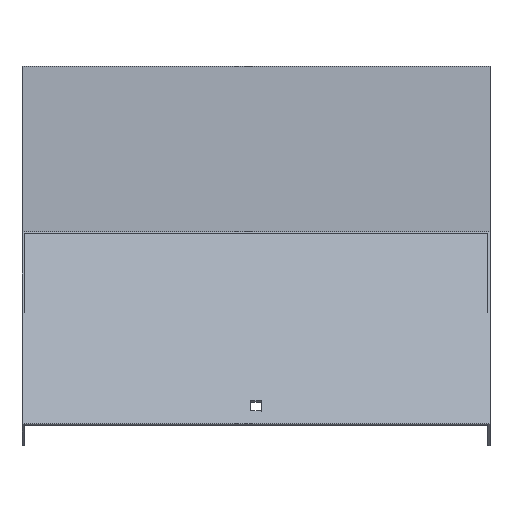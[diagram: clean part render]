
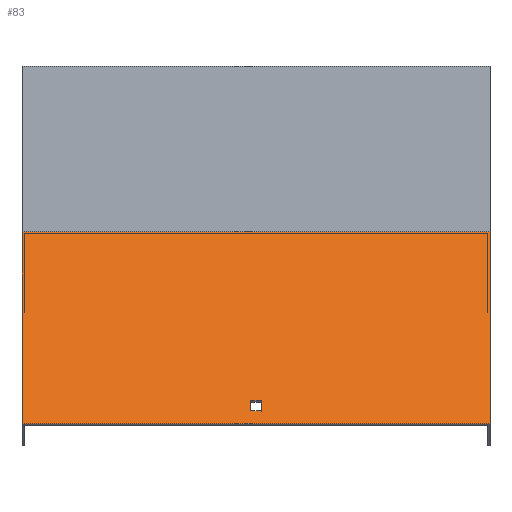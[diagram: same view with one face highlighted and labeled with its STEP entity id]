
A CAD part, top view. The second image highlights one B-rep face of the part: STEP entity #83.
In plain terms, the highlighted planar face has unit normal (0, 0.707, 0.707).
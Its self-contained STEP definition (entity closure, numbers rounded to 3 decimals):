
#5 = DIRECTION ( 'NONE',  ( 0., 0.707, -0.707 ) ) ;
#24 = ORIENTED_EDGE ( 'NONE', *, *, #441, .F. ) ;
#26 = EDGE_CURVE ( 'NONE', #655, #223, #465, .T. ) ;
#27 = VECTOR ( 'NONE', #407, 1000. ) ;
#33 = VECTOR ( 'NONE', #5, 1000. ) ;
#50 = EDGE_CURVE ( 'NONE', #576, #820, #211, .T. ) ;
#56 = VECTOR ( 'NONE', #664, 1000. ) ;
#69 = CARTESIAN_POINT ( 'NONE',  ( -151.5, -211.953, 559.984 ) ) ;
#83 = ADVANCED_FACE ( 'NONE', ( #672, #521 ), #342, .F. ) ;
#130 = CARTESIAN_POINT ( 'NONE',  ( 151.5, -197.104, 545.134 ) ) ;
#161 = CARTESIAN_POINT ( 'NONE',  ( -3.25, -197.104, 545.134 ) ) ;
#168 = LINE ( 'NONE', #822, #367 ) ;
#173 = CARTESIAN_POINT ( 'NONE',  ( -3.25, -203.468, 551.498 ) ) ;
#186 = EDGE_CURVE ( 'NONE', #759, #655, #168, .T. ) ;
#187 = VERTEX_POINT ( 'NONE', #355 ) ;
#211 = LINE ( 'NONE', #595, #735 ) ;
#217 = EDGE_LOOP ( 'NONE', ( #523, #24, #228, #632 ) ) ;
#223 = VERTEX_POINT ( 'NONE', #161 ) ;
#228 = ORIENTED_EDGE ( 'NONE', *, *, #50, .F. ) ;
#229 = CARTESIAN_POINT ( 'NONE',  ( 151.5, -87.517, 435.548 ) ) ;
#231 = VECTOR ( 'NONE', #612, 1000. ) ;
#251 = VERTEX_POINT ( 'NONE', #525 ) ;
#268 = LINE ( 'NONE', #457, #231 ) ;
#273 = DIRECTION ( 'NONE',  ( 0., -0.707, 0.707 ) ) ;
#293 = CARTESIAN_POINT ( 'NONE',  ( -151.5, -90.33, 438.361 ) ) ;
#300 = DIRECTION ( 'NONE',  ( -1., 0., 0. ) ) ;
#324 = DIRECTION ( 'NONE',  ( -1., 0., 0. ) ) ;
#330 = EDGE_CURVE ( 'NONE', #187, #759, #471, .T. ) ;
#342 = PLANE ( 'NONE',  #504 ) ;
#343 = CARTESIAN_POINT ( 'NONE',  ( 151.5, -211.953, 559.984 ) ) ;
#355 = CARTESIAN_POINT ( 'NONE',  ( 3.25, -197.104, 545.134 ) ) ;
#356 = VERTEX_POINT ( 'NONE', #69 ) ;
#362 = CARTESIAN_POINT ( 'NONE',  ( 3.25, -203.468, 551.498 ) ) ;
#367 = VECTOR ( 'NONE', #300, 1000. ) ;
#390 = LINE ( 'NONE', #343, #499 ) ;
#407 = DIRECTION ( 'NONE',  ( 0., -0.707, 0.707 ) ) ;
#410 = CARTESIAN_POINT ( 'NONE',  ( 151.5, -90.33, 438.361 ) ) ;
#423 = VECTOR ( 'NONE', #693, 1000. ) ;
#427 = ORIENTED_EDGE ( 'NONE', *, *, #476, .T. ) ;
#441 = EDGE_CURVE ( 'NONE', #820, #356, #390, .T. ) ;
#457 = CARTESIAN_POINT ( 'NONE',  ( 151.5, -87.517, 435.548 ) ) ;
#465 = LINE ( 'NONE', #537, #33 ) ;
#471 = LINE ( 'NONE', #543, #27 ) ;
#474 = DIRECTION ( 'NONE',  ( 0., 0.707, -0.707 ) ) ;
#476 = EDGE_CURVE ( 'NONE', #223, #187, #654, .T. ) ;
#487 = CARTESIAN_POINT ( 'NONE',  ( 151.5, -211.953, 559.984 ) ) ;
#499 = VECTOR ( 'NONE', #324, 1000. ) ;
#504 = AXIS2_PLACEMENT_3D ( 'NONE', #410, #799, #474 ) ;
#513 = EDGE_CURVE ( 'NONE', #576, #251, #268, .T. ) ;
#521 = FACE_OUTER_BOUND ( 'NONE', #217, .T. ) ;
#523 = ORIENTED_EDGE ( 'NONE', *, *, #606, .T. ) ;
#525 = CARTESIAN_POINT ( 'NONE',  ( -151.5, -87.517, 435.548 ) ) ;
#537 = CARTESIAN_POINT ( 'NONE',  ( -3.25, -90.33, 438.361 ) ) ;
#543 = CARTESIAN_POINT ( 'NONE',  ( 3.25, -90.33, 438.361 ) ) ;
#576 = VERTEX_POINT ( 'NONE', #229 ) ;
#595 = CARTESIAN_POINT ( 'NONE',  ( 151.5, -90.33, 438.361 ) ) ;
#606 = EDGE_CURVE ( 'NONE', #251, #356, #678, .T. ) ;
#612 = DIRECTION ( 'NONE',  ( -1., 0., 0. ) ) ;
#632 = ORIENTED_EDGE ( 'NONE', *, *, #513, .T. ) ;
#654 = LINE ( 'NONE', #130, #56 ) ;
#655 = VERTEX_POINT ( 'NONE', #173 ) ;
#664 = DIRECTION ( 'NONE',  ( 1., 0., 0. ) ) ;
#672 = FACE_BOUND ( 'NONE', #768, .T. ) ;
#678 = LINE ( 'NONE', #293, #423 ) ;
#693 = DIRECTION ( 'NONE',  ( 0., -0.707, 0.707 ) ) ;
#708 = ORIENTED_EDGE ( 'NONE', *, *, #186, .T. ) ;
#719 = ORIENTED_EDGE ( 'NONE', *, *, #26, .T. ) ;
#735 = VECTOR ( 'NONE', #273, 1000. ) ;
#759 = VERTEX_POINT ( 'NONE', #362 ) ;
#768 = EDGE_LOOP ( 'NONE', ( #427, #773, #708, #719 ) ) ;
#773 = ORIENTED_EDGE ( 'NONE', *, *, #330, .T. ) ;
#799 = DIRECTION ( 'NONE',  ( 0., -0.707, -0.707 ) ) ;
#820 = VERTEX_POINT ( 'NONE', #487 ) ;
#822 = CARTESIAN_POINT ( 'NONE',  ( 151.5, -203.468, 551.498 ) ) ;
